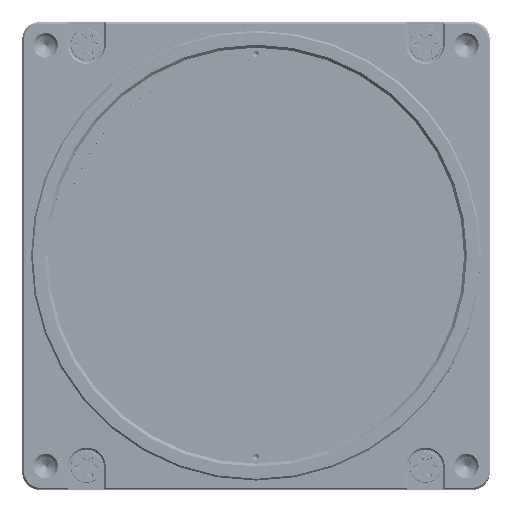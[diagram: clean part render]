
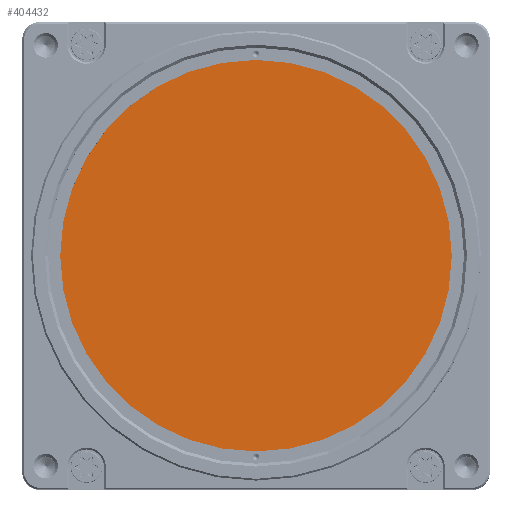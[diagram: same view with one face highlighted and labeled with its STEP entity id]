
A CAD part, top view. The second image highlights one B-rep face of the part: STEP entity #404432.
In plain terms, the highlighted planar face has unit normal (0, 0, 1).
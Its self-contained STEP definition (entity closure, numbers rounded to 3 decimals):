
#25477 = CARTESIAN_POINT ( 'NONE',  ( 0., 0., 1. ) ) ;
#103171 = AXIS2_PLACEMENT_3D ( 'NONE', #317675, #359064, #151515 ) ;
#107115 = AXIS2_PLACEMENT_3D ( 'NONE', #25477, #292402, #156842 ) ;
#128353 = FACE_OUTER_BOUND ( 'NONE', #410192, .T. ) ;
#143780 = EDGE_CURVE ( 'NONE', #257239, #257239, #305532, .T. ) ;
#151515 = DIRECTION ( 'NONE',  ( 1., 0., 0. ) ) ;
#156842 = DIRECTION ( 'NONE',  ( 1., 0., 0. ) ) ;
#159047 = PLANE ( 'NONE',  #107115 ) ;
#180397 = ORIENTED_EDGE ( 'NONE', *, *, #143780, .T. ) ;
#191648 = CARTESIAN_POINT ( 'NONE',  ( 35.3, 0., 1. ) ) ;
#257239 = VERTEX_POINT ( 'NONE', #191648 ) ;
#292402 = DIRECTION ( 'NONE',  ( 0., 0., 1. ) ) ;
#305532 = CIRCLE ( 'NONE', #103171, 35.3 ) ;
#317675 = CARTESIAN_POINT ( 'NONE',  ( 0., 0., 1. ) ) ;
#359064 = DIRECTION ( 'NONE',  ( 0., 0., 1. ) ) ;
#404432 = ADVANCED_FACE ( 'NONE', ( #128353 ), #159047, .T. ) ;
#410192 = EDGE_LOOP ( 'NONE', ( #180397 ) ) ;
